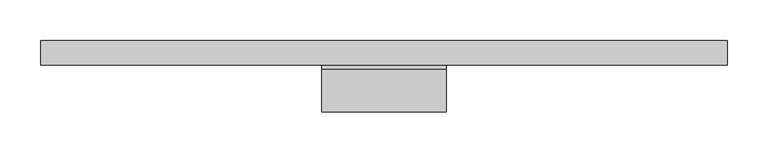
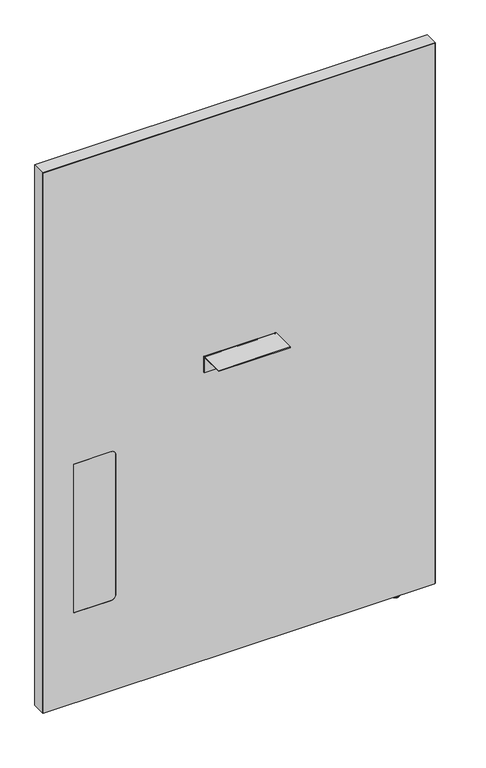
"""IFC4 building model written with IfcOpenShell, lengths in millimetres: furniture geometry, Steelcase - Answer Solution - Boundary Screen - Straight - Single Sided : 48H x 33W."""

from ifc_helpers import new_model, si_unit, point, frame, frame_2d, origin, place, context, project, spatial, polyline, circle_curve, ellipse_curve, trimmed, segment, composite_curve, outline, extrude, source, transform, mapped, element, save
from ifc_brep_helpers import plane_surface, cylinder_surface, revolved_surface, advanced_brep


def furniture_f4545583(model_context):
    return source(origin(), model_context, "Body", "SolidModel", [
        extrude(outline(composite_curve([segment(polyline([(-86.8398151, 696.4680019), (-86.8398151, 698.5), (-34.9450855, 698.5)]), True, "CONTINUOUS"), segment(trimmed(circle_curve(frame_2d((-34.9450855, 693.2447477)), 5.2552523), [point((-34.9450855, 698.5))], [point((-29.6898332, 693.2447477))], False, "CARTESIAN"), True, "CONTINUOUS"), segment(polyline([(-29.6898332, 693.2447477), (-29.6898332, 660.4), (-31.7218162, 660.4), (-31.7218162, 693.0058743)]), True, "CONTINUOUS"), segment(trimmed(circle_curve(frame_2d((-35.1839438, 693.0058743)), 3.4621276), [point((-31.7218162, 693.0058743))], [point((-35.1839438, 696.4680019))], True, "CARTESIAN"), True, "CONTINUOUS"), segment(polyline([(-35.1839438, 696.4680019), (-86.8398151, 696.4680019)]), True, "CONTINUOUS")], self_intersect=False)), frame((-303.5808593, 0.0, 0.0), z_axis=(1.0, 0.0, 0.0), x_axis=(0.0, 1.0, 0.0)), (0.0, 0.0, 1.0), 152.4000969),
        advanced_brep(
        [(114.5286488, -23.7588726, 9.9059849), (114.5286488, -5.9309607, 9.9059849), (114.5286488, -14.8449166, 9.9059849), (114.5286488, -23.7588726, 2.9673238), (114.5286488, -5.9309607, 2.9673238), (114.5286488, -22.7915354, 2.9673238), (114.5286488, -6.8982978, 2.9673238), (114.5286488, -22.7915354, 1.6569081), (114.5286488, -6.8982978, 1.6569081), (114.5286488, -21.1346274, 0.0), (114.5286488, -8.5552059, 0.0), (114.5286488, -14.8449166, 0.0)],
        [
            (0, 1, circle_curve(frame((114.5286488, -14.8449166, 9.9059849), z_axis=(0.0, 0.0, 1.0), x_axis=(0.0, 1.0, 0.0)), 8.913956)),
            (1, 2),
            (2, 0),
            (1, 0, circle_curve(frame((114.5286488, -14.8449166, 9.9059849), z_axis=(0.0, 0.0, 1.0), x_axis=(0.0, 1.0, 0.0)), 8.913956)),
            (3, 4, circle_curve(frame((114.5286488, -14.8449166, 2.9673238), z_axis=(0.0, 0.0, 1.0), x_axis=(0.0, 1.0, 0.0)), 8.913956)),
            (4, 1),
            (0, 3),
            (4, 3, circle_curve(frame((114.5286488, -14.8449166, 2.9673238), z_axis=(0.0, 0.0, 1.0), x_axis=(0.0, 1.0, 0.0)), 8.913956)),
            (5, 6, circle_curve(frame((114.5286488, -14.8449166, 2.9673238), z_axis=(0.0, 0.0, 1.0), x_axis=(0.0, 1.0, 0.0)), 7.9466188)),
            (6, 4),
            (3, 5),
            (6, 5, circle_curve(frame((114.5286488, -14.8449166, 2.9673238), z_axis=(0.0, 0.0, 1.0), x_axis=(0.0, 1.0, 0.0)), 7.9466188)),
            (7, 8, circle_curve(frame((114.5286488, -14.8449166, 1.6569081), z_axis=(0.0, 0.0, 1.0), x_axis=(0.0, 1.0, 0.0)), 7.9466188)),
            (8, 6),
            (5, 7),
            (8, 7, circle_curve(frame((114.5286488, -14.8449166, 1.6569081), z_axis=(0.0, 0.0, 1.0), x_axis=(0.0, 1.0, 0.0)), 7.9466188)),
            (9, 10, circle_curve(frame((114.5286488, -14.8449166, 0.0), z_axis=(0.0, 0.0, 1.0), x_axis=(0.0, 1.0, 0.0)), 6.2897107)),
            (10, 8, circle_curve(frame((114.5286488, -8.5552059, 1.6569081), z_axis=(1.0, 0.0, 0.0), x_axis=(0.0, 1.0, 0.0)), 1.6569081)),
            (7, 9, circle_curve(frame((114.5286488, -21.1346274, 1.6569081), z_axis=(1.0, 0.0, 0.0), x_axis=(0.0, -1.0, 0.0)), 1.6569081)),
            (10, 9, circle_curve(frame((114.5286488, -14.8449166, 0.0), z_axis=(0.0, 0.0, 1.0), x_axis=(0.0, 1.0, 0.0)), 6.2897107)),
            (11, 10),
            (9, 11),
        ],
        [
            plane_surface(frame((114.5286488, -14.8449166, 9.9059849), z_axis=(0.0, 0.0, 1.0), x_axis=(0.0, 1.0, 0.0))),
            cylinder_surface(frame((114.5286488, -14.8449166, 9.9059849), z_axis=(0.0, 0.0, -1.0), x_axis=(0.0, 1.0, 0.0)), 8.913956),
            plane_surface(frame((114.5286488, -14.8449166, 2.9673238), z_axis=(0.0, 0.0, -1.0), x_axis=(0.0, 1.0, 0.0))),
            cylinder_surface(frame((114.5286488, -14.8449166, 9.9059849), z_axis=(0.0, 0.0, -1.0), x_axis=(0.0, 1.0, 0.0)), 7.9466188),
            revolved_surface(trimmed(ellipse_curve(frame((114.5286488, -8.5552059, 1.6569081), z_axis=(-1.0, 0.0, 0.0), x_axis=(0.0, 1.0, 0.0)), 1.6569081, 1.6569081), [point((114.5286488, -6.8982978, 1.6569081))], [point((114.5286488, -8.5552059, 0.0))], True, "CARTESIAN"), (114.5286488, -14.8449166, 9.9059849), (0.0, 0.0, -1.0)),
            plane_surface(frame((114.5286488, -14.8449166, 0.0), z_axis=(0.0, 0.0, -1.0), x_axis=(0.0, 1.0, 0.0))),
        ],
        [
            (0, [[1, 2, 3]]),
            (0, [[4, -3, -2]]),
            (1, [[5, 6, -1, 7]]),
            (1, [[8, -7, -4, -6]]),
            (2, [[9, 10, -5, 11]]),
            (2, [[12, -11, -8, -10]]),
            (3, [[13, 14, -9, 15]]),
            (3, [[16, -15, -12, -14]]),
            (4, [[17, 18, -13, 19]]),
            (4, [[20, -19, -16, -18]]),
            (5, [[21, -17, 22]]),
            (5, [[-22, -20, -21]]),
        ],
    ),
        advanced_brep(
        [(190.6780168, 0.0, 1229.142118), (190.6780168, 0.0, 9.9059849), (-645.4902221, 0.0, 9.9059849), (-645.4902221, 0.0, 1229.142118), (190.6780168, -29.6898332, 1229.142118), (-645.4902221, -29.6898332, 1229.142118), (-645.4902221, -29.6898332, 9.9059849), (190.6780168, -29.6898332, 9.9059849), (-501.1463873, -29.6898332, 549.6162029), (-490.9863873, -29.6898332, 539.4562029), (-490.9863873, -29.6898332, 223.9362137), (-501.1463873, -29.6898332, 213.7762137), (-580.800285, -29.6898332, 213.7762137), (-580.800285, -29.6898332, 549.6162029), (-580.800285, -29.0550397, 549.6162029), (-501.1463873, -29.0550397, 549.6162029), (-580.800285, -29.0550397, 213.7762137), (-501.1463873, -29.0550397, 213.7762137), (-490.9863873, -29.0550397, 223.9362137), (-490.9863873, -29.0550397, 539.4562029)],
        [
            (0, 1),
            (1, 2),
            (2, 3),
            (3, 0),
            (4, 5),
            (5, 6),
            (6, 7),
            (7, 4),
            (8, 9, circle_curve(frame((-501.1463873, -29.6898332, 539.4562029), z_axis=(0.0, 1.0, 0.0), x_axis=(0.0, 0.0, 1.0)), 10.16)),
            (9, 10),
            (10, 11, circle_curve(frame((-501.1463873, -29.6898332, 223.9362137), z_axis=(0.0, 1.0, 0.0), x_axis=(0.0, 0.0, 1.0)), 10.16)),
            (11, 12),
            (12, 13),
            (13, 8),
            (0, 4),
            (7, 1),
            (6, 2),
            (5, 3),
            (13, 14),
            (14, 15),
            (15, 8),
            (12, 16),
            (16, 14),
            (11, 17),
            (17, 16),
            (10, 18),
            (18, 17, circle_curve(frame((-501.1463873, -29.0550397, 223.9362137), z_axis=(0.0, 1.0, 0.0), x_axis=(0.0, 0.0, 1.0)), 10.16)),
            (9, 19),
            (19, 18),
            (15, 19, circle_curve(frame((-501.1463873, -29.0550397, 539.4562029), z_axis=(0.0, 1.0, 0.0), x_axis=(0.0, 0.0, 1.0)), 10.16)),
        ],
        [
            plane_surface(frame((190.6780168, 0.0, 1229.142118), z_axis=(0.0, 1.0, 0.0), x_axis=(0.0, 0.0, -1.0))),
            plane_surface(frame((190.6780168, -29.6898332, 1229.142118), z_axis=(0.0, -1.0, 0.0), x_axis=(0.0, 0.0, 1.0))),
            plane_surface(frame((190.6780168, 0.0, 1229.142118), z_axis=(1.0, 0.0, 0.0), x_axis=(0.0, -1.0, 0.0))),
            plane_surface(frame((190.6780168, 0.0, 9.9059849), z_axis=(0.0, 0.0, -1.0), x_axis=(0.0, -1.0, 0.0))),
            plane_surface(frame((-645.4902221, 0.0, 9.9059849), z_axis=(-1.0, 0.0, 0.0), x_axis=(0.0, -1.0, 0.0))),
            plane_surface(frame((-645.4902221, 0.0, 1229.142118), z_axis=(0.0, 0.0, 1.0), x_axis=(0.0, -1.0, 0.0))),
            plane_surface(frame((-501.1463873, 0.0, 549.6162029), z_axis=(0.0, 0.0, -1.0), x_axis=(0.0, -1.0, 0.0))),
            plane_surface(frame((-580.800285, 0.0, 549.6162029), z_axis=(1.0, 0.0, 0.0), x_axis=(0.0, -1.0, 0.0))),
            plane_surface(frame((-580.800285, 0.0, 213.7762137), z_axis=(0.0, 0.0, 1.0), x_axis=(0.0, -1.0, 0.0))),
            revolved_surface(polyline([(-501.1463873, -29.6898332, 234.0962137), (-501.1463873, -29.0550397, 234.0962137)]), (-501.1463873, -29.6898332, 223.9362137), (0.0, -1.0, 0.0)),
            plane_surface(frame((-490.9863873, 0.0, 223.9362137), z_axis=(-1.0, 0.0, 0.0), x_axis=(0.0, -1.0, 0.0))),
            revolved_surface(polyline([(-501.1463873, -29.6898332, 549.6162029), (-501.1463873, -29.0550397, 549.6162029)]), (-501.1463873, -29.6898332, 539.4562029), (0.0, -1.0, 0.0)),
            plane_surface(frame((-490.9863873, -29.0550397, 629.172953), z_axis=(0.0, -1.0, 0.0), x_axis=(0.0, 0.0, 1.0))),
        ],
        [
            (0, [[1, 2, 3, 4]]),
            (1, [[5, 6, 7, 8], [9, 10, 11, 12, 13, 14]]),
            (2, [[-1, 15, -8, 16]]),
            (3, [[-2, -16, -7, 17]]),
            (4, [[-3, -17, -6, 18]]),
            (5, [[-4, -18, -5, -15]]),
            (6, [[-14, 19, 20, 21]]),
            (7, [[-13, 22, 23, -19]]),
            (8, [[-12, 24, 25, -22]]),
            (9, [[-11, 26, 27, -24]]),
            (10, [[-10, 28, 29, -26]]),
            (11, [[-9, -21, 30, -28]]),
            (12, [[-20, -23, -25, -27, -29, -30]]),
        ],
    ),
        extrude(outline(composite_curve([segment(polyline([(549.6162029, -501.1463873), (549.6162029, -580.800285), (213.7762137, -580.800285), (213.7762137, -501.1463873)]), True, "CONTINUOUS"), segment(trimmed(circle_curve(frame_2d((223.9362137, -501.1463873)), 10.16), [point((213.7762137, -501.1463873))], [point((223.9362137, -490.9863873))], False, "CARTESIAN"), True, "CONTINUOUS"), segment(polyline([(223.9362137, -490.9863873), (539.4562029, -490.9863873)]), True, "CONTINUOUS"), segment(trimmed(circle_curve(frame_2d((539.4562029, -501.1463873)), 10.16), [point((539.4562029, -490.9863873))], [point((549.6162029, -501.1463873))], False, "CARTESIAN"), True, "CONTINUOUS")], self_intersect=False)), frame((0.0, -29.6898332, 0.0), z_axis=(0.0, 1.0, 0.0), x_axis=(0.0, 0.0, 1.0)), (0.0, 0.0, 1.0), 0.6347935),
        extrude(outline(polyline([(1230.122, 191.7191891), (1230.122, -646.4808109), (9.9059849, -646.4808109), (9.9059849, -645.4902221), (1229.142118, -645.4902221), (1229.142118, 190.6780168), (9.9059849, 190.6780168), (9.9059849, 191.7191891), (1230.122, 191.7191891)])), frame((0.0, -29.6898332, 0.0), z_axis=(0.0, 1.0, 0.0), x_axis=(0.0, 0.0, 1.0)), (0.0, 0.0, 1.0), 29.6898332),
    ])


if __name__ == "__main__":
    model = new_model("IFC4")
    model_context = context("Model", 3, world=origin())
    ifc_project = project(units=[si_unit("LENGTHUNIT", "METRE", prefix="MILLI")], contexts=[model_context])
    site = spatial("IfcSite", under=ifc_project)
    building = spatial("IfcBuilding", under=site)
    placement = place(None, origin())
    furniture_shape = furniture_f4545583(model_context)
    element("IfcFurniture", 1, ObjectType="Steelcase - Answer Solution - Boundary Screen - Straight - Single Sided : 48H x 33W", at=placement, inside=building, context=model_context, shape_type="MappedRepresentation", body=[
        mapped(furniture_shape, transform((0.0, 0.0, 0.0), x_axis=(1.0, 0.0, 0.0), y_axis=(0.0, 1.0, 0.0), z_axis=(0.0, 0.0, 1.0))),
    ])
    save(model, "model.ifc")
